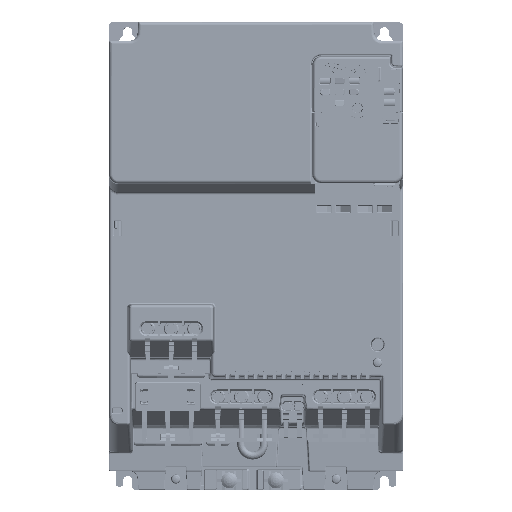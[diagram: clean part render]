
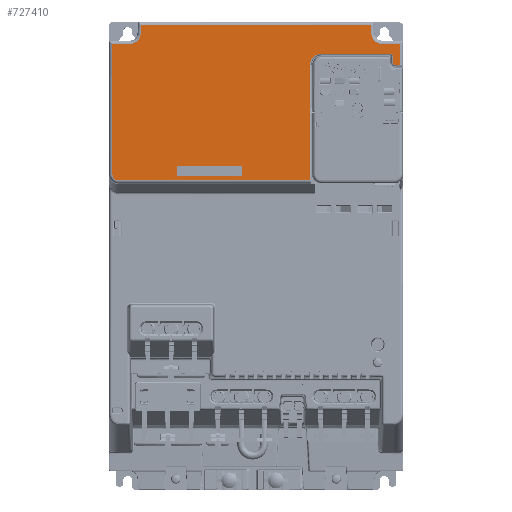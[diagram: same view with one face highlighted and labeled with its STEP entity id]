
A CAD part, top view. The second image highlights one B-rep face of the part: STEP entity #727410.
In plain terms, the highlighted planar face has unit normal (0, 0, 1) as drawn and (0, 1, 0) by its records, which use the part's own axes.
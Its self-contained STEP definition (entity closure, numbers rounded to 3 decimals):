
#606181=CARTESIAN_POINT('',(-94.694,128.,-167.));
#606182=DIRECTION('',(0.,1.,0.));
#606183=DIRECTION('',(0.,0.,1.));
#606184=AXIS2_PLACEMENT_3D('',#606181,#606182,#606183);
#606186=DIRECTION('',(0.052,0.,
-0.999));
#606187=VECTOR('',#606186,5.953);
#606188=CARTESIAN_POINT('',(-86.205,128.,-166.555));
#606189=LINE('',#606188,#606187);
#606190=DIRECTION('',(0.052,0.,0.999));
#606191=VECTOR('',#606190,5.953);
#606192=CARTESIAN_POINT('',(85.894,128.,-172.5));
#606193=LINE('',#606192,#606191);
#606194=CARTESIAN_POINT('',(94.694,128.,-167.));
#606195=DIRECTION('',(0.,1.,0.));
#606196=DIRECTION('',(-0.999,0.,0.052));
#606197=AXIS2_PLACEMENT_3D('',#606194,#606195,#606196);
#606199=DIRECTION('',(-0.999,0.,-0.052));
#606200=VECTOR('',#606199,3.587);
#606201=CARTESIAN_POINT('',(107.5,128.,
-142.748));
#606202=LINE('',#606201,#606200);
#606203=CARTESIAN_POINT('',(104.,128.,-144.5));
#606204=DIRECTION('',(0.,-1.,0.));
#606205=DIRECTION('',(-0.052,0.,0.999));
#606206=AXIS2_PLACEMENT_3D('',#606203,#606204,#606205);
#606208=CARTESIAN_POINT('',(102.433,128.,
-149.184));
#606209=CARTESIAN_POINT('',(102.433,128.,
-149.462));
#606210=CARTESIAN_POINT('',(102.325,128.,
-149.972));
#606211=CARTESIAN_POINT('',(101.885,128.,
-150.635));
#606212=CARTESIAN_POINT('',(101.222,128.,
-151.075));
#606213=CARTESIAN_POINT('',(100.712,128.,
-151.183));
#606214=CARTESIAN_POINT('',(100.434,128.,
-151.183));
#606216=CARTESIAN_POINT('',(49.,128.,-142.5));
#606217=DIRECTION('',(0.,1.,0.));
#606218=DIRECTION('',(0.,0.,-1.));
#606219=AXIS2_PLACEMENT_3D('',#606216,#606217,#606218);
#606221=CARTESIAN_POINT('',(-102.997,128.,
-60.975));
#606222=DIRECTION('',(0.,-1.,0.));
#606223=DIRECTION('',(-0.002,0.,1.));
#606224=AXIS2_PLACEMENT_3D('',#606221,#606222,#606223);
#606230=DIRECTION('',(-1.,0.,0.));
#606231=VECTOR('',#606230,12.806);
#606232=CARTESIAN_POINT('',(-94.694,128.,-158.5));
#606233=LINE('',#606232,#606231);
#606272=DIRECTION('',(0.,0.,1.));
#606273=VECTOR('',#606272,97.52);
#606274=CARTESIAN_POINT('',(-107.5,128.,-158.5));
#606275=LINE('',#606274,#606273);
#606312=DIRECTION('',(1.,0.,0.));
#606313=VECTOR('',#606312,143.318);
#606314=CARTESIAN_POINT('',(-103.002,128.,
-56.472));
#606315=LINE('',#606314,#606313);
#606326=DIRECTION('',(0.,0.,-1.));
#606327=VECTOR('',#606326,86.028);
#606328=CARTESIAN_POINT('',(40.317,128.,
-56.472));
#606329=LINE('',#606328,#606327);
#629516=DIRECTION('',(0.,0.,-1.));
#629517=VECTOR('',#629516,15.752);
#629518=CARTESIAN_POINT('',(107.5,128.,
-142.748));
#629519=LINE('',#629518,#629517);
#629520=DIRECTION('',(-1.,0.,0.));
#629521=VECTOR('',#629520,12.806);
#629522=CARTESIAN_POINT('',(107.5,128.,-158.5));
#629523=LINE('',#629522,#629521);
#629585=DIRECTION('',(-1.,0.,0.));
#629586=VECTOR('',#629585,171.788);
#629587=CARTESIAN_POINT('',(85.894,128.,-172.5));
#629588=LINE('',#629587,#629586);
#649765=DIRECTION('',(0.,0.,1.));
#649766=VECTOR('',#649765,4.684);
#649767=CARTESIAN_POINT('',(102.433,128.,
-149.184));
#649768=LINE('',#649767,#649766);
#649790=DIRECTION('',(1.,0.,0.));
#649791=VECTOR('',#649790,51.434);
#649792=CARTESIAN_POINT('',(49.,128.,-151.183));
#649793=LINE('',#649792,#649791);
#692841=CARTESIAN_POINT('',(107.5,128.,-142.748));
#692842=VERTEX_POINT('',#692841);
#692844=CARTESIAN_POINT('',(103.918,128.,-142.936));
#692845=VERTEX_POINT('',#692844);
#692848=CARTESIAN_POINT('',(102.433,128.,-144.5));
#692849=VERTEX_POINT('',#692848);
#692858=CARTESIAN_POINT('',(49.,128.,-151.183));
#692859=CARTESIAN_POINT('',(40.317,128.,-142.5));
#692860=VERTEX_POINT('',#692858);
#692861=VERTEX_POINT('',#692859);
#692862=CARTESIAN_POINT('',(-94.694,128.,-158.5));
#692863=CARTESIAN_POINT('',(-107.5,128.,-158.5));
#692864=VERTEX_POINT('',#692862);
#692865=VERTEX_POINT('',#692863);
#692866=CARTESIAN_POINT('',(-86.205,128.,-166.555));
#692867=VERTEX_POINT('',#692866);
#692868=CARTESIAN_POINT('',(-85.894,128.,-172.5));
#692869=VERTEX_POINT('',#692868);
#692870=CARTESIAN_POINT('',(85.894,128.,-172.5));
#692871=VERTEX_POINT('',#692870);
#692872=CARTESIAN_POINT('',(86.205,128.,-166.555));
#692873=VERTEX_POINT('',#692872);
#692874=CARTESIAN_POINT('',(94.694,128.,-158.5));
#692875=VERTEX_POINT('',#692874);
#692876=CARTESIAN_POINT('',(107.5,128.,-158.5));
#692877=VERTEX_POINT('',#692876);
#692878=CARTESIAN_POINT('',(102.433,128.,
-149.184));
#692879=VERTEX_POINT('',#692878);
#692880=VERTEX_POINT('',#606214);
#692881=CARTESIAN_POINT('',(40.317,128.,
-56.472));
#692882=VERTEX_POINT('',#692881);
#692883=CARTESIAN_POINT('',(-103.002,128.,
-56.472));
#692884=VERTEX_POINT('',#692883);
#692885=CARTESIAN_POINT('',(-107.5,128.,
-60.984));
#692886=VERTEX_POINT('',#692885);
#727370=CARTESIAN_POINT('',(0.,128.,0.));
#727371=DIRECTION('',(0.,1.,0.));
#727372=DIRECTION('',(1.,0.,0.));
#727373=AXIS2_PLACEMENT_3D('',#727370,#727371,#727372);
#727374=PLANE('',#727373);
#727376=ORIENTED_EDGE('',*,*,#727375,.F.);
#727378=ORIENTED_EDGE('',*,*,#727377,.T.);
#727380=ORIENTED_EDGE('',*,*,#727379,.T.);
#727382=ORIENTED_EDGE('',*,*,#727381,.F.);
#727384=ORIENTED_EDGE('',*,*,#727383,.T.);
#727386=ORIENTED_EDGE('',*,*,#727385,.T.);
#727388=ORIENTED_EDGE('',*,*,#727387,.F.);
#727390=ORIENTED_EDGE('',*,*,#727389,.F.);
#727391=ORIENTED_EDGE('',*,*,#727265,.T.);
#727392=ORIENTED_EDGE('',*,*,#727280,.T.);
#727394=ORIENTED_EDGE('',*,*,#727393,.F.);
#727396=ORIENTED_EDGE('',*,*,#727395,.T.);
#727398=ORIENTED_EDGE('',*,*,#727397,.F.);
#727399=ORIENTED_EDGE('',*,*,#727360,.T.);
#727401=ORIENTED_EDGE('',*,*,#727400,.F.);
#727403=ORIENTED_EDGE('',*,*,#727402,.F.);
#727405=ORIENTED_EDGE('',*,*,#727404,.T.);
#727407=ORIENTED_EDGE('',*,*,#727406,.F.);
#727408=EDGE_LOOP('',(#727376,#727378,#727380,#727382,#727384,#727386,#727388,
#727390,#727391,#727392,#727394,#727396,#727398,#727399,#727401,#727403,#727405,
#727407));
#727409=FACE_OUTER_BOUND('',#727408,.F.);
#727410=ADVANCED_FACE('',(#727409),#727374,.T.);
#606185=CIRCLE('',#606184,8.5);
#606198=CIRCLE('',#606197,8.5);
#606207=CIRCLE('',#606206,1.567);
#606215=B_SPLINE_CURVE_WITH_KNOTS('',3,(#606208,#606209,#606210,#606211,#606212,
#606213,#606214),.UNSPECIFIED.,.F.,.F.,(4,1,1,1,4),(0.,0.25,0.5,0.75,
1.),.UNSPECIFIED.);
#606220=CIRCLE('',#606219,8.683);
#606225=CIRCLE('',#606224,4.503);
#727265=EDGE_CURVE('',#692842,#692845,#606202,.T.);
#727280=EDGE_CURVE('',#692845,#692849,#606207,.T.);
#727360=EDGE_CURVE('',#692860,#692861,#606220,.T.);
#727375=EDGE_CURVE('',#692864,#692865,#606233,.T.);
#727377=EDGE_CURVE('',#692864,#692867,#606185,.T.);
#727379=EDGE_CURVE('',#692867,#692869,#606189,.T.);
#727381=EDGE_CURVE('',#692871,#692869,#629588,.T.);
#727383=EDGE_CURVE('',#692871,#692873,#606193,.T.);
#727385=EDGE_CURVE('',#692873,#692875,#606198,.T.);
#727387=EDGE_CURVE('',#692877,#692875,#629523,.T.);
#727389=EDGE_CURVE('',#692842,#692877,#629519,.T.);
#727393=EDGE_CURVE('',#692879,#692849,#649768,.T.);
#727395=EDGE_CURVE('',#692879,#692880,#606215,.T.);
#727397=EDGE_CURVE('',#692860,#692880,#649793,.T.);
#727400=EDGE_CURVE('',#692882,#692861,#606329,.T.);
#727402=EDGE_CURVE('',#692884,#692882,#606315,.T.);
#727404=EDGE_CURVE('',#692884,#692886,#606225,.T.);
#727406=EDGE_CURVE('',#692865,#692886,#606275,.T.);
